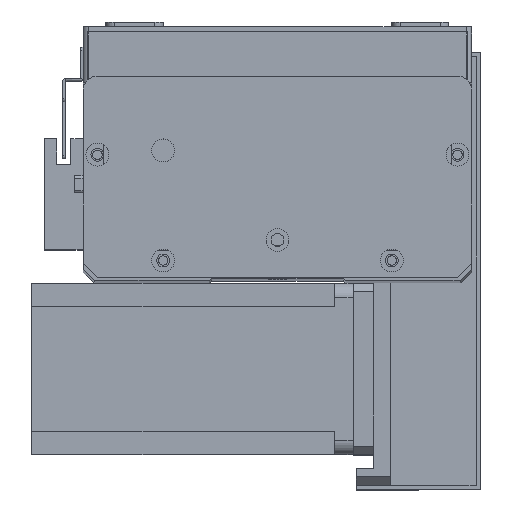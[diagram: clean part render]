
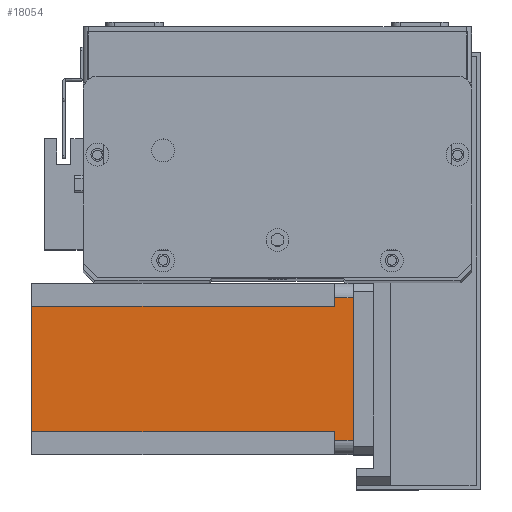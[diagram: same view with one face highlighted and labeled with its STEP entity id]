
A CAD part, top view. The second image highlights one B-rep face of the part: STEP entity #18054.
In plain terms, the highlighted planar face has unit normal (0, 0, 1) as drawn and (0, -1, 0) by its records, which use the part's own axes.
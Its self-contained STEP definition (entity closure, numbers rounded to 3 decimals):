
#472 = LINE ( 'NONE', #18202, #11715 ) ;
#662 = CARTESIAN_POINT ( 'NONE',  ( 55., 0., -6.5 ) ) ;
#690 = DIRECTION ( 'NONE',  ( 0., 0., -1. ) ) ;
#1185 = VERTEX_POINT ( 'NONE', #20196 ) ;
#1772 = EDGE_CURVE ( 'NONE', #25933, #13108, #14282, .T. ) ;
#1910 = CARTESIAN_POINT ( 'NONE',  ( 55., 0., -112.5 ) ) ;
#2124 = AXIS2_PLACEMENT_3D ( 'NONE', #24970, #14074, #690 ) ;
#2376 = VECTOR ( 'NONE', #16836, 1000. ) ;
#2871 = EDGE_CURVE ( 'NONE', #13108, #1185, #6273, .T. ) ;
#2995 = CARTESIAN_POINT ( 'NONE',  ( 55., 0., 0. ) ) ;
#4231 = EDGE_CURVE ( 'NONE', #23470, #1185, #472, .T. ) ;
#4804 = VECTOR ( 'NONE', #25276, 1000. ) ;
#4973 = EDGE_CURVE ( 'NONE', #8264, #5503, #22340, .T. ) ;
#5223 = LINE ( 'NONE', #19076, #27188 ) ;
#5503 = VERTEX_POINT ( 'NONE', #2995 ) ;
#5596 = DIRECTION ( 'NONE',  ( 0., 0., -1. ) ) ;
#6041 = ORIENTED_EDGE ( 'NONE', *, *, #27697, .F. ) ;
#6273 = LINE ( 'NONE', #25365, #4804 ) ;
#6335 = ORIENTED_EDGE ( 'NONE', *, *, #2871, .F. ) ;
#7067 = EDGE_CURVE ( 'NONE', #16994, #8264, #27684, .T. ) ;
#7988 = CARTESIAN_POINT ( 'NONE',  ( 52., 0., -6.5 ) ) ;
#8264 = VERTEX_POINT ( 'NONE', #662 ) ;
#9628 = PLANE ( 'NONE',  #2124 ) ;
#10202 = LINE ( 'NONE', #12348, #16771 ) ;
#10567 = VECTOR ( 'NONE', #13937, 1000. ) ;
#11715 = VECTOR ( 'NONE', #18009, 1000. ) ;
#11896 = ORIENTED_EDGE ( 'NONE', *, *, #28394, .T. ) ;
#12109 = EDGE_CURVE ( 'NONE', #23470, #5503, #5223, .T. ) ;
#12348 = CARTESIAN_POINT ( 'NONE',  ( 0., 0., -112.5 ) ) ;
#12437 = CARTESIAN_POINT ( 'NONE',  ( 5., 0., 0. ) ) ;
#13108 = VERTEX_POINT ( 'NONE', #23109 ) ;
#13168 = CARTESIAN_POINT ( 'NONE',  ( 8., 0., -112.5 ) ) ;
#13334 = CARTESIAN_POINT ( 'NONE',  ( 52., 0., -6.5 ) ) ;
#13937 = DIRECTION ( 'NONE',  ( 1., 0., 0. ) ) ;
#14074 = DIRECTION ( 'NONE',  ( 0., -1., 0. ) ) ;
#14282 = LINE ( 'NONE', #17675, #2376 ) ;
#15080 = VERTEX_POINT ( 'NONE', #19681 ) ;
#16771 = VECTOR ( 'NONE', #25444, 1000. ) ;
#16836 = DIRECTION ( 'NONE',  ( 0., 0., 1. ) ) ;
#16994 = VERTEX_POINT ( 'NONE', #7988 ) ;
#17516 = ORIENTED_EDGE ( 'NONE', *, *, #1772, .F. ) ;
#17675 = CARTESIAN_POINT ( 'NONE',  ( 8., 0., -112.5 ) ) ;
#17996 = EDGE_LOOP ( 'NONE', ( #23294, #27413, #19542, #26998, #6335, #17516, #11896, #6041 ) ) ;
#18009 = DIRECTION ( 'NONE',  ( 0., 0., -1. ) ) ;
#18054 = ADVANCED_FACE ( 'NONE', ( #24628 ), #9628, .T. ) ;
#18202 = CARTESIAN_POINT ( 'NONE',  ( 5., 0., -112.5 ) ) ;
#18820 = CARTESIAN_POINT ( 'NONE',  ( 52., 0., -112.5 ) ) ;
#19047 = DIRECTION ( 'NONE',  ( 1., 0., 0. ) ) ;
#19076 = CARTESIAN_POINT ( 'NONE',  ( 0., 0., 0. ) ) ;
#19542 = ORIENTED_EDGE ( 'NONE', *, *, #12109, .F. ) ;
#19681 = CARTESIAN_POINT ( 'NONE',  ( 52., 0., -112.5 ) ) ;
#20196 = CARTESIAN_POINT ( 'NONE',  ( 5., 0., -6.5 ) ) ;
#22340 = LINE ( 'NONE', #1910, #27368 ) ;
#23109 = CARTESIAN_POINT ( 'NONE',  ( 8., 0., -6.5 ) ) ;
#23294 = ORIENTED_EDGE ( 'NONE', *, *, #7067, .T. ) ;
#23470 = VERTEX_POINT ( 'NONE', #12437 ) ;
#24628 = FACE_OUTER_BOUND ( 'NONE', #17996, .T. ) ;
#24970 = CARTESIAN_POINT ( 'NONE',  ( 0., 0., -112.5 ) ) ;
#25276 = DIRECTION ( 'NONE',  ( -1., 0., 0. ) ) ;
#25365 = CARTESIAN_POINT ( 'NONE',  ( 8., 0., -6.5 ) ) ;
#25444 = DIRECTION ( 'NONE',  ( 1., 0., 0. ) ) ;
#25933 = VERTEX_POINT ( 'NONE', #13168 ) ;
#26129 = LINE ( 'NONE', #18820, #26786 ) ;
#26564 = DIRECTION ( 'NONE',  ( 0., 0., 1. ) ) ;
#26786 = VECTOR ( 'NONE', #5596, 1000. ) ;
#26998 = ORIENTED_EDGE ( 'NONE', *, *, #4231, .T. ) ;
#27188 = VECTOR ( 'NONE', #19047, 1000. ) ;
#27368 = VECTOR ( 'NONE', #26564, 1000. ) ;
#27413 = ORIENTED_EDGE ( 'NONE', *, *, #4973, .T. ) ;
#27684 = LINE ( 'NONE', #13334, #10567 ) ;
#27697 = EDGE_CURVE ( 'NONE', #16994, #15080, #26129, .T. ) ;
#28394 = EDGE_CURVE ( 'NONE', #25933, #15080, #10202, .T. ) ;
